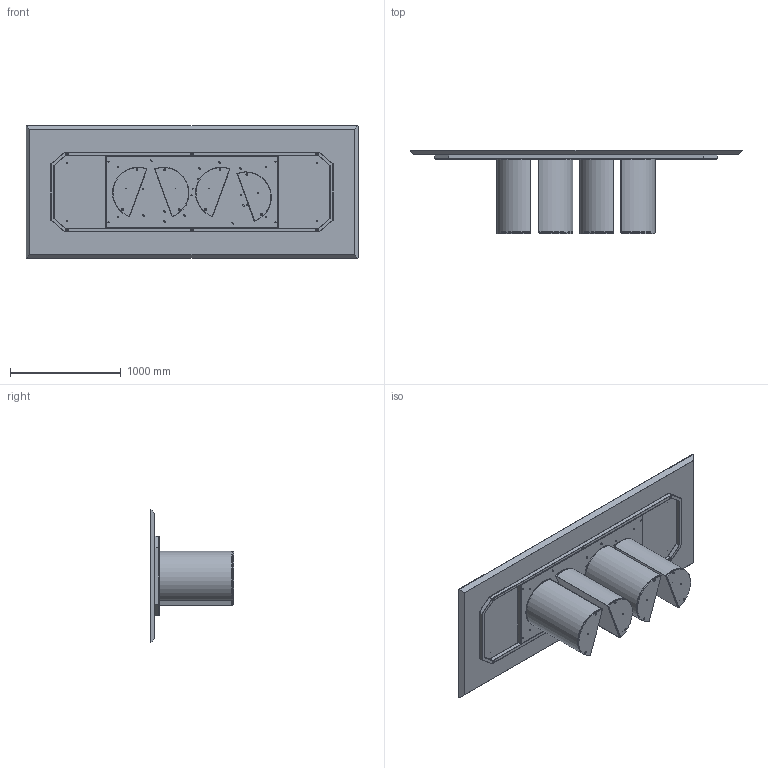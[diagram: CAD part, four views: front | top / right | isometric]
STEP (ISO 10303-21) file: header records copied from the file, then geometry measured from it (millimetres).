
FILE_DESCRIPTION (( 'STEP AP203' ), '1' );
FILE_NAME ('PL24W.STEP', '2024-08-07T13:57:17', ( '' ), ( '' ), 'SwSTEP 2.0', 'SolidWorks 2022', '' );
FILE_SCHEMA (( 'CONFIG_CONTROL_DESIGN' ));
Length unit declared in the file: millimetre
Products named in the file (14): TTAV07_02-01-VASSOIO TELAIO  PLAI ONDA NOA 300; TTAV07_01-04-STRUTTURA TAVOLI PLAI ONDA NOA 300; M8xXXmm_M8x55mm; PL24W; PLA000000ZOC-01-PLAI ZOCCOLO DELLA BASE; W2XCMXX-00-Piani Rettangolari in legno_3000 x 1200; COLLO TELAIO UNIVERSALE TTAV07 CON FERRAMENTA_MTG TOP LEGNO-MARMO-KING; M8xXXmm_M8x20mm; TTAV07-04-TELAIO X TAVOLI PLAI ONDA NOA 300; Assieme Basamento PLAI_Basamento per tavoli; rondella M8_8X24; M8xXXmm_hex_M8X60mm; M8xXXmm_hex_M8X20mm; PLA000000BAS-00-PLAI BASE GREZZA
Assembly tree (41 placements, depth 4):
  PL24W
    COLLO TELAIO UNIVERSALE TTAV07 CON FERRAMENTA_MTG TOP LEGNO-MARMO-KING
      TTAV07-04-TELAIO X TAVOLI PLAI ONDA NOA 300
        TTAV07_01-04-STRUTTURA TAVOLI PLAI ONDA NOA 300
        TTAV07_02-01-VASSOIO TELAIO  PLAI ONDA NOA 300
      rondella M8_8X24  x6
      M8xXXmm_M8x55mm  x6
    Assieme Basamento PLAI_Basamento per tavoli  x4
      PLA000000BAS-00-PLAI BASE GREZZA
      PLA000000ZOC-01-PLAI ZOCCOLO DELLA BASE
      M8xXXmm_hex_M8X60mm
      M8xXXmm_hex_M8X20mm
    rondella M8_8X24  x8
    M8xXXmm_M8x20mm  x8
    W2XCMXX-00-Piani Rettangolari in legno_3000 x 1200
Bounding box: 3000 x 752 x 1200 mm (x, y, z)
Volume: 149084075.9 mm3; surface area: 19091220.6 mm2
Topology: 59 solids, 59 shells, 1610 faces, 3686 edges, 2147 vertices
Faces by surface type: plane 640, cylinder 506, cone 264, torus 184, sphere 16
Entity records: 22150 total; most frequent: DIRECTION 3614, CARTESIAN_POINT 3552, ORIENTED_EDGE 3236, EDGE_CURVE 1618, AXIS2_PLACEMENT_3D 1349, VERTEX_POINT 1003, VECTOR 916, LINE 916
